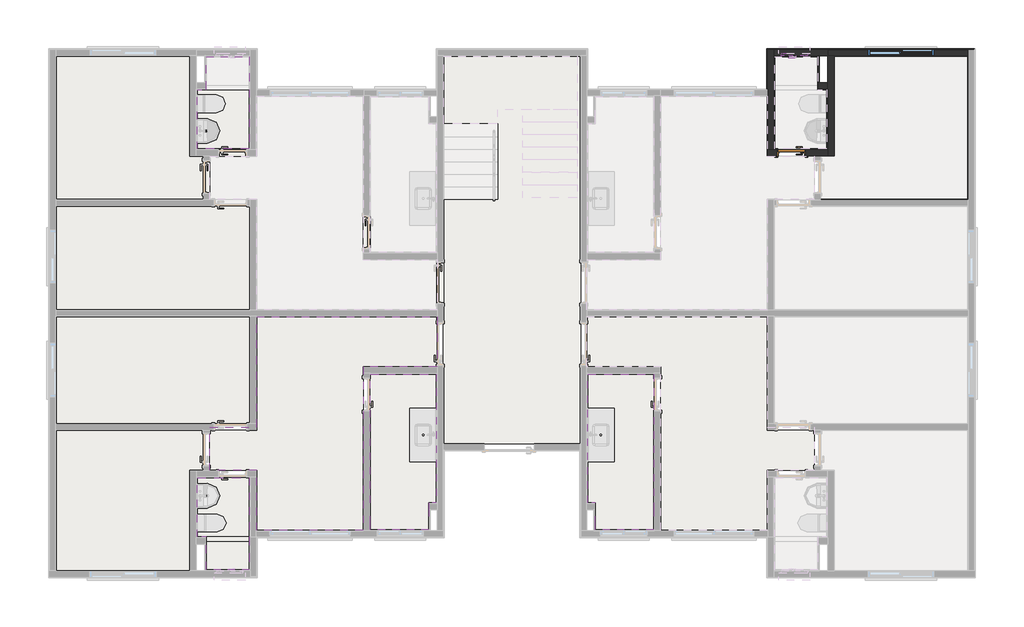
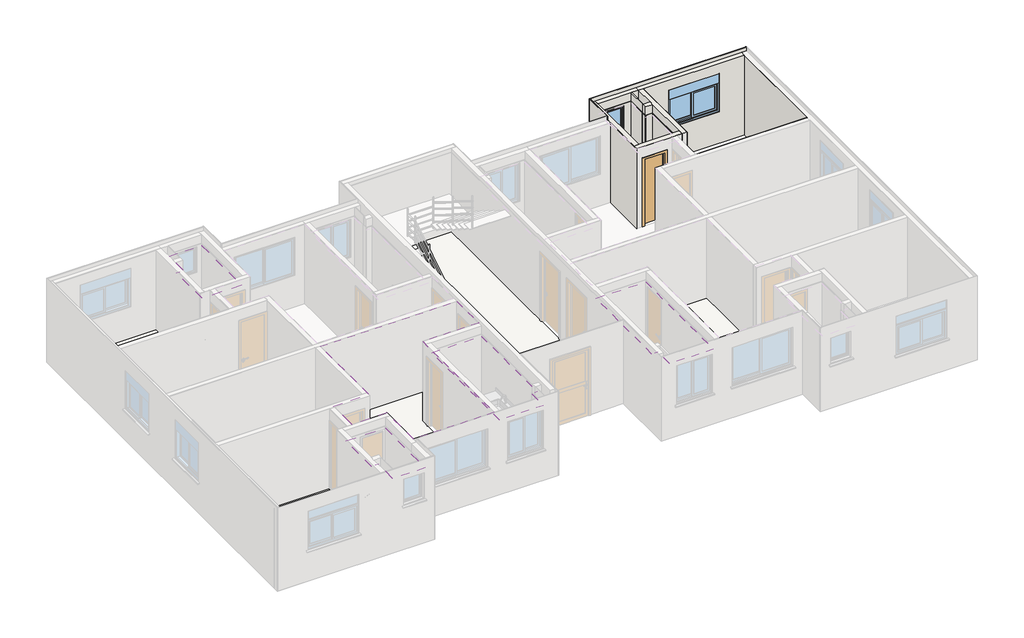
# One storey, part 8 of 9: 22 walls, 15 slabs, 5 coverings, 2 windows, 1 door.
"""IFC4 building model written with IfcOpenShell, lengths in millimetres."""

from ifc_helpers import new_model, si_unit, frame, origin, place, context, project, spatial, polyline, outline, extrude, faceted_brep, transform, mapped, element, save
from components import porta_de_madeira_interna_60_x_210_porta_de_madeira_interna_53f76a03, window_150x120_581fea6a, window_60x80_d31b0025

model = new_model("IFC4")

# Units and contexts
model_context = context("Model", 3, world=origin())
ifc_project = project(units=[si_unit("LENGTHUNIT", "METRE", prefix="MILLI")], contexts=[model_context])

# Site, building, storey
site = spatial("IfcSite", under=ifc_project)
building = spatial("IfcBuilding", under=site)
storey = spatial("IfcBuildingStorey", under=building, Name="3º Pavimento", Elevation=5260.0)

# Coverings
placement = place(None, origin())
element("IfcCovering", 1, ObjectType="Forro - Gesso acartonado + Pintura", at=placement, inside=storey, context=model_context, shape_type="Brep", body=[
    faceted_brep([(8536.99631, 1539.9983274, 7461.0), (7233.0017324, 1539.9983274, 7461.0), (7233.0017324, 2145.0132549, 7461.0), (7233.0017324, 5033.6603139, 7461.0), (8709.9963008, 5033.6603139, 7461.0), (8709.9963008, 2145.0132549, 7461.0), (8536.99631, 2145.0132549, 7461.0), (7233.0017324, 1539.9983274, 7481.0), (8536.99631, 1539.9983274, 7481.0), (8536.99631, 2145.0132549, 7481.0), (8709.9963008, 2145.0132549, 7481.0), (8709.9963008, 5033.6603139, 7481.0), (7233.0017324, 5033.6603139, 7481.0), (7233.0017324, 2145.0132549, 7481.0)], [[[0, 1, 2, 3, 4, 5, 6]], [[7, 8, 9, 10, 11, 12, 13]], [[8, 7, 1, 0]], [[9, 8, 0, 6]], [[10, 9, 6, 5]], [[11, 10, 5, 4]], [[12, 11, 4, 3]], [[7, 13, 12, 3, 2, 1]]]),
    faceted_brep([(7233.0017324, 1539.9983274, 7460.0), (8536.99631, 1539.9983274, 7460.0), (8536.99631, 1539.9983274, 7461.0), (7233.0017324, 1539.9983274, 7461.0), (8536.99631, 2145.0132549, 7460.0), (8536.99631, 2145.0132549, 7461.0), (8709.9963008, 2145.0132549, 7460.0), (8709.9963008, 2145.0132549, 7461.0), (8709.9963008, 5033.6603139, 7460.0), (8709.9963008, 5033.6603139, 7461.0), (7233.0017324, 5033.6603139, 7460.0), (7233.0017324, 5033.6603139, 7461.0), (7233.0017324, 2145.0132549, 7460.0), (7233.0017324, 2145.0132549, 7461.0)], [[[0, 1, 2, 3]], [[1, 4, 5, 2]], [[4, 6, 7, 5]], [[6, 8, 9, 7]], [[8, 10, 11, 9]], [[12, 0, 3, 13, 11, 10]], [[3, 2, 5, 7, 9, 11, 13]], [[0, 12, 10, 8, 6, 4, 1]]]),
])
element("IfcCovering", 2, ObjectType="Forro - Gesso acartonado + Pintura", at=placement, inside=storey, context=model_context, shape_type="Brep", body=[
    faceted_brep([(3339.9976538, 2709.9967615, 7461.0), (4509.9990083, 2709.9967615, 7461.0), (4509.9990083, 1379.9983274, 7461.0), (4509.9990083, 639.9950349, 7461.0), (3549.99398, 639.9950349, 7461.0), (3549.99398, 1379.9983274, 7461.0), (3339.9976538, 1379.9983274, 7461.0), (4509.9990083, 2709.9967615, 7481.0), (3339.9976538, 2709.9967615, 7481.0), (3339.9976538, 1379.9983274, 7481.0), (3549.99398, 1379.9983274, 7481.0), (3549.99398, 639.9950349, 7481.0), (4509.9990083, 639.9950349, 7481.0), (4509.9990083, 1379.9983274, 7481.0)], [[[0, 1, 2, 3, 4, 5, 6]], [[7, 8, 9, 10, 11, 12, 13]], [[8, 7, 1, 0]], [[9, 8, 0, 6]], [[10, 9, 6, 5]], [[11, 10, 5, 4]], [[12, 11, 4, 3]], [[7, 13, 12, 3, 2, 1]]]),
    faceted_brep([(4509.9990083, 2709.9967615, 7460.0), (3339.9976538, 2709.9967615, 7460.0), (3339.9976538, 2709.9967615, 7461.0), (4509.9990083, 2709.9967615, 7461.0), (3339.9976538, 1379.9983274, 7460.0), (3339.9976538, 1379.9983274, 7461.0), (3549.99398, 1379.9983274, 7460.0), (3549.99398, 1379.9983274, 7461.0), (3549.99398, 639.9950349, 7460.0), (3549.99398, 639.9950349, 7461.0), (4509.9990083, 639.9950349, 7460.0), (4509.9990083, 639.9950349, 7461.0), (4509.9990083, 1379.9983274, 7460.0), (4509.9990083, 1379.9983274, 7461.0)], [[[0, 1, 2, 3]], [[1, 4, 5, 2]], [[4, 6, 7, 5]], [[6, 8, 9, 7]], [[8, 10, 11, 9]], [[12, 0, 3, 13, 11, 10]], [[3, 2, 5, 7, 9, 11, 13]], [[0, 12, 10, 8, 6, 4, 1]]]),
])
element("IfcCovering", 3, ObjectType="Forro - Gesso acartonado + Pintura", at=placement, inside=storey, context=model_context, shape_type="Brep", body=[
    faceted_brep([(4509.9990083, 10090.0238664, 7461.0), (3339.9976538, 10090.0238664, 7461.0), (3339.9976538, 11420.0223004, 7461.0), (3549.99398, 11420.0223004, 7461.0), (3549.99398, 12160.025593, 7461.0), (4509.9990083, 12160.025593, 7461.0), (4509.9990083, 11420.0223004, 7461.0), (4509.9990083, 10090.0238664, 7481.0), (4509.9990083, 11420.0223004, 7481.0), (4509.9990083, 12160.025593, 7481.0), (3549.99398, 12160.025593, 7481.0), (3549.99398, 11420.0223004, 7481.0), (3339.9976538, 11420.0223004, 7481.0), (3339.9976538, 10090.0238664, 7481.0)], [[[0, 1, 2, 3, 4, 5, 6]], [[7, 8, 9, 10, 11, 12, 13]], [[7, 13, 1, 0]], [[13, 12, 2, 1]], [[12, 11, 3, 2]], [[11, 10, 4, 3]], [[10, 9, 5, 4]], [[9, 8, 7, 0, 6, 5]]]),
    faceted_brep([(3339.9976538, 10090.0238664, 7460.0), (4509.9990083, 10090.0238664, 7460.0), (4509.9990083, 10090.0238664, 7461.0), (3339.9976538, 10090.0238664, 7461.0), (3339.9976538, 11420.0223004, 7460.0), (3339.9976538, 11420.0223004, 7461.0), (3549.99398, 11420.0223004, 7460.0), (3549.99398, 11420.0223004, 7461.0), (3549.99398, 12160.025593, 7460.0), (3549.99398, 12160.025593, 7461.0), (4509.9990083, 12160.025593, 7460.0), (4509.9990083, 12160.025593, 7461.0), (4509.9990083, 11420.0223004, 7460.0), (4509.9990083, 11420.0223004, 7461.0)], [[[0, 1, 2, 3]], [[4, 0, 3, 5]], [[6, 4, 5, 7]], [[8, 6, 7, 9]], [[10, 8, 9, 11]], [[12, 10, 11, 13, 2, 1]], [[3, 2, 13, 11, 9, 7, 5]], [[1, 0, 4, 6, 8, 10, 12]]]),
])
element("IfcCovering", 4, ObjectType="Forro - Gesso acartonado + Pintura", at=placement, inside=storey, context=model_context, shape_type="Brep", body=[
    faceted_brep([(13586.992975, 1539.9983274, 7461.0), (12282.9983974, 1539.9983274, 7461.0), (12282.9983974, 2145.0132549, 7461.0), (12109.9984066, 2145.0132549, 7461.0), (12109.9984066, 5033.6603139, 7461.0), (13586.992975, 5033.6603139, 7461.0), (13586.992975, 2145.0132549, 7461.0), (13586.992975, 1539.9983274, 7481.0), (13586.992975, 2145.0132549, 7481.0), (13586.992975, 5033.6603139, 7481.0), (12109.9984066, 5033.6603139, 7481.0), (12109.9984066, 2145.0132549, 7481.0), (12282.9983974, 2145.0132549, 7481.0), (12282.9983974, 1539.9983274, 7481.0)], [[[0, 1, 2, 3, 4, 5, 6]], [[7, 8, 9, 10, 11, 12, 13]], [[7, 13, 1, 0]], [[13, 12, 2, 1]], [[12, 11, 3, 2]], [[11, 10, 4, 3]], [[10, 9, 5, 4]], [[9, 8, 7, 0, 6, 5]]]),
    faceted_brep([(12282.9983974, 1539.9983274, 7460.0), (13586.992975, 1539.9983274, 7460.0), (13586.992975, 1539.9983274, 7461.0), (12282.9983974, 1539.9983274, 7461.0), (12282.9983974, 2145.0132549, 7460.0), (12282.9983974, 2145.0132549, 7461.0), (12109.9984066, 2145.0132549, 7460.0), (12109.9984066, 2145.0132549, 7461.0), (12109.9984066, 5033.6603139, 7460.0), (12109.9984066, 5033.6603139, 7461.0), (13586.992975, 5033.6603139, 7460.0), (13586.992975, 5033.6603139, 7461.0), (13586.992975, 2145.0132549, 7460.0), (13586.992975, 2145.0132549, 7461.0)], [[[0, 1, 2, 3]], [[4, 0, 3, 5]], [[6, 4, 5, 7]], [[8, 6, 7, 9]], [[10, 8, 9, 11]], [[12, 10, 11, 13, 2, 1]], [[3, 2, 13, 11, 9, 7, 5]], [[1, 0, 4, 6, 8, 10, 12]]]),
])
element("IfcCovering", 5, ObjectType="Textura Laje", at=placement, inside=storey, context=model_context, shape_type="SweptSolid", body=[
    extrude(outline(polyline([(175.9991825, 624.9953844), (175.9991825, 3773.9951411), (3474.9980641, 3773.9951411), (3474.9980641, 2874.9967615), (3174.9977061, 2874.9967615), (3174.9977061, 624.9953844), (175.9991825, 624.9953844)])), frame((0.0, 0.0, 7768.0), z_axis=(0.0, 0.0, 1.0), x_axis=(1.0, 0.0, 0.0)), (0.0, 0.0, 1.0), 2.0),
    extrude(outline(polyline([(174.9992567, 3926.5903488), (174.9992567, 6325.0103139), (4524.9996867, 6325.0103139), (4524.9996867, 3926.5903488), (174.9992567, 3926.5903488)])), frame((0.0, 0.0, 7768.0), z_axis=(0.0, 0.0, 1.0), x_axis=(1.0, 0.0, 0.0)), (0.0, 0.0, 1.0), 2.0),
    extrude(outline(polyline([(4675.9996867, 3843.9961476), (4675.9996867, 6324.0103139), (8729.9963008, 6324.0103139), (8729.9963008, 5199.6603139), (8709.865378, 5199.6603139), (7066.9986861, 5199.6603139), (7066.9986861, 1525.9983274), (4675.9990083, 1525.9983274), (4675.9990083, 2875.9967615), (3625.9980641, 2875.9967615), (3625.9980641, 3843.9961476), (4675.9996867, 3843.9961476)])), frame((0.0, 0.0, 7768.0), z_axis=(0.0, 0.0, 1.0), x_axis=(1.0, 0.0, 0.0)), (0.0, 0.0, 1.0), 2.0),
])

# Door
porta_de_madeira_interna_60_x_210_porta_de_madeira_interna_shape = porta_de_madeira_interna_60_x_210_porta_de_madeira_interna_53f76a03(model_context)
element("IfcDoor", 6, ObjectType="Porta de Madeira Interna 60 x 210 : Porta de Madeira Interna 60 x 210", at=placement, inside=storey, context=model_context, shape_type="MappedRepresentation", body=[
    mapped(porta_de_madeira_interna_60_x_210_porta_de_madeira_interna_shape, transform((16681.9956991, 10003.1988664, 5260.0), x_axis=(-1.0, 0.0, 0.0), y_axis=(0.0, -1.0, 0.0), z_axis=(0.0, 0.0, 1.0))),
])

# Slabs
element("IfcSlab", 7, ObjectType="Cerâmica piso + Impermeabilização", at=placement, inside=storey, context=model_context, shape_type="SweptSolid", body=[
    extrude(outline(polyline([(4509.99398, 1294.9970972), (4509.99398, 639.9950349), (3549.99398, 639.9950349), (3549.99398, 1294.9970972), (4509.99398, 1294.9970972)])), frame((0.0, 0.0, 5259.0), z_axis=(0.0, 0.0, 1.0), x_axis=(1.0, 0.0, 0.0)), (0.0, 0.0, 1.0), 11.0),
])
element("IfcSlab", 8, ObjectType="Pedra Basalto", at=placement, inside=storey, context=model_context, shape_type="SweptSolid", body=[
    extrude(outline(polyline([(4509.99398, 1284.9970972), (3529.99398, 1284.9970972), (3529.99398, 1384.9970972), (4509.99398, 1384.9970972), (4509.99398, 1284.9970972)])), frame((0.0, 0.0, 5350.0), z_axis=(0.0, 0.0, 1.0), x_axis=(1.0, 0.0, 0.0)), (0.0, 0.0, 1.0), 20.0),
])
element("IfcSlab", 9, ObjectType="Cerâmica", at=placement, inside=storey, context=model_context, shape_type="SweptSolid", body=[
    extrude(outline(polyline([(4509.9990083, 1379.9970972), (3339.9976538, 1379.9970972), (3339.9976538, 2709.9967615), (4509.9990083, 2709.9967615), (4509.9990083, 1379.9970972)])), frame((0.0, 0.0, 5260.0), z_axis=(0.0, 0.0, 1.0), x_axis=(1.0, 0.0, 0.0)), (0.0, 0.0, 1.0), 10.0),
])
element("IfcSlab", 10, ObjectType="Cerâmica", at=placement, inside=storey, context=model_context, shape_type="SweptSolid", body=[
    extrude(outline(polyline([(8709.9963008, 5033.6603139), (8709.9963008, 2145.0132549), (8536.99631, 2145.0132549), (8536.99631, 1539.9983274), (7233.0017324, 1539.9983274), (7233.0017324, 2145.0132549), (7233.0017324, 5033.6603139), (8709.9963008, 5033.6603139)])), frame((0.0, 0.0, 5260.0), z_axis=(0.0, 0.0, 1.0), x_axis=(1.0, 0.0, 0.0)), (0.0, 0.0, 1.0), 10.0),
])
element("IfcSlab", 11, ObjectType="Cerâmica", at=placement, inside=storey, context=model_context, shape_type="SweptSolid", body=[
    extrude(outline(polyline([(4509.9990083, 11420.0235306), (4509.9990083, 10090.0238664), (3339.9976538, 10090.0238664), (3339.9976538, 11420.0235306), (4509.9990083, 11420.0235306)])), frame((0.0, 0.0, 5260.0), z_axis=(0.0, 0.0, 1.0), x_axis=(1.0, 0.0, 0.0)), (0.0, 0.0, 1.0), 10.0),
])
element("IfcSlab", 12, ObjectType="Cerâmica", at=placement, inside=storey, context=model_context, shape_type="SweptSolid", body=[
    extrude(outline(polyline([(8723.9963008, 6324.0103139), (8723.9963008, 5199.6603139), (7066.9986861, 5199.6603139), (7066.9986861, 1519.9983274), (4675.9990083, 1519.9983274), (4675.9990083, 2875.9967615), (3625.9980641, 2875.9967615), (3625.9980641, 3773.9951411), (4675.9996867, 3773.9951411), (4675.9996867, 6324.0103139), (8723.9963008, 6324.0103139)])), frame((0.0, 0.0, 5260.0), z_axis=(0.0, 0.0, 1.0), x_axis=(1.0, 0.0, 0.0)), (0.0, 0.0, 1.0), 10.0),
])
element("IfcSlab", 13, ObjectType="Vinilico", at=placement, inside=storey, context=model_context, shape_type="SweptSolid", body=[
    extrude(outline(polyline([(4523.9996867, 6324.0103139), (4523.9996867, 3925.9951411), (175.9991825, 3925.9951411), (175.9991825, 6324.0103139), (4523.9996867, 6324.0103139)])), frame((0.0, 0.0, 5260.0), z_axis=(0.0, 0.0, 1.0), x_axis=(1.0, 0.0, 0.0)), (0.0, 0.0, 1.0), 10.0),
])
element("IfcSlab", 14, ObjectType="Vinilico", at=placement, inside=storey, context=model_context, shape_type="SweptSolid", body=[
    extrude(outline(polyline([(4523.9996867, 8804.0244803), (4523.9996867, 6476.0103139), (175.9991825, 6476.0103139), (175.9991825, 8804.0244803), (4523.9996867, 8804.0244803)])), frame((0.0, 0.0, 5260.0), z_axis=(0.0, 0.0, 1.0), x_axis=(1.0, 0.0, 0.0)), (0.0, 0.0, 1.0), 10.0),
])
element("IfcSlab", 15, ObjectType="Vinilico", at=placement, inside=storey, context=model_context, shape_type="SweptSolid", body=[
    extrude(outline(polyline([(175.9991825, 12174.0253822), (3173.9976538, 12174.0253822), (3173.9976538, 9924.0253822), (3473.9976538, 9924.0253822), (3473.9976538, 8954.0253822), (175.9991825, 8954.0253822), (175.9991825, 12174.0253822)])), frame((0.0, 0.0, 5260.0), z_axis=(0.0, 0.0, 1.0), x_axis=(1.0, 0.0, 0.0)), (0.0, 0.0, 1.0), 10.0),
])
element("IfcSlab", 16, ObjectType="Vinilico", at=placement, inside=storey, context=model_context, shape_type="SweptSolid", body=[
    extrude(outline(polyline([(175.9991825, 625.9952456), (175.9991825, 3845.9952456), (3473.9976538, 3845.9952456), (3473.9976538, 2875.9952456), (3173.9976538, 2875.9952456), (3173.9976538, 625.9952456), (175.9991825, 625.9952456)])), frame((0.0, 0.0, 5260.0), z_axis=(0.0, 0.0, 1.0), x_axis=(1.0, 0.0, 0.0)), (0.0, 0.0, 1.0), 10.0),
])
element("IfcSlab", 17, ObjectType="Cerâmica", at=placement, inside=storey, context=model_context, shape_type="SweptSolid", body=[
    extrude(outline(polyline([(12109.9984066, 5033.6603139), (13586.992975, 5033.6603139), (13586.992975, 2145.0132549), (13586.992975, 1539.9983274), (12282.9983974, 1539.9983274), (12282.9983974, 2145.0132549), (12109.9984066, 2145.0132549), (12109.9984066, 5033.6603139)])), frame((0.0, 0.0, 5260.0), z_axis=(0.0, 0.0, 1.0), x_axis=(1.0, 0.0, 0.0)), (0.0, 0.0, 1.0), 10.0),
])
element("IfcSlab", 18, ObjectType="Cerâmica", at=placement, inside=storey, context=model_context, shape_type="SweptSolid", body=[
    extrude(outline(polyline([(12095.9984066, 6324.0103139), (16143.9950207, 6324.0103139), (16143.9950207, 3773.9951411), (17193.9966432, 3773.9951411), (17193.9966432, 2875.9967615), (16143.9956991, 2875.9967615), (16143.9956991, 1519.9983274), (13752.9960213, 1519.9983274), (13752.9960213, 5199.6603139), (12095.9984066, 5199.6603139), (12095.9984066, 6324.0103139)])), frame((0.0, 0.0, 5260.0), z_axis=(0.0, 0.0, 1.0), x_axis=(1.0, 0.0, 0.0)), (0.0, 0.0, 1.0), 10.0),
])
element("IfcSlab", 19, ObjectType="Soleira", at=placement, inside=storey, context=model_context, shape_type="SweptSolid", body=[
    extrude(outline(polyline([(3625.9980641, 9832.0248023), (3625.9980641, 9082.0248023), (3473.9980641, 9082.0248023), (3473.9980641, 9832.0248023), (3625.9980641, 9832.0248023)])), frame((0.0, 0.0, 5260.0), z_axis=(0.0, 0.0, 1.0), x_axis=(1.0, 0.0, 0.0)), (0.0, 0.0, 1.0), 10.0),
    extrude(outline(polyline([(4462.9990083, 10090.0238664), (4462.9990083, 9924.0238664), (3812.9990083, 9924.0238664), (3812.9990083, 10090.0238664), (4462.9990083, 10090.0238664)])), frame((0.0, 0.0, 5260.0), z_axis=(0.0, 0.0, 1.0), x_axis=(1.0, 0.0, 0.0)), (0.0, 0.0, 1.0), 10.0),
])
element("IfcSlab", 20, ObjectType="Soleira", at=placement, inside=storey, context=model_context, shape_type="SweptSolid", body=[
    extrude(outline(polyline([(7233.0017324, 8596.3603139), (7233.0017324, 7846.3603139), (7066.9986861, 7846.3603139), (7066.9986861, 8596.3603139), (7233.0017324, 8596.3603139)])), frame((0.0, 0.0, 5260.0), z_axis=(0.0, 0.0, 1.0), x_axis=(1.0, 0.0, 0.0)), (0.0, 0.0, 1.0), 10.0),
    extrude(outline(polyline([(8723.9963008, 7560.0103139), (8875.9991022, 7560.0103139), (8875.9991022, 6610.0103139), (8723.9963008, 6610.0103139), (8723.9963008, 7560.0103139)])), frame((0.0, 0.0, 5260.0), z_axis=(0.0, 0.0, 1.0), x_axis=(1.0, 0.0, 0.0)), (0.0, 0.0, 1.0), 10.0),
])
element("IfcSlab", 21, ObjectType="Porcelanato", at=placement, inside=storey, context=model_context, shape_type="SweptSolid", body=[
    extrude(outline(polyline([(11949.9956991, 3470.00443), (8869.9991022, 3470.00443), (8869.9991022, 12179.9988127), (11949.9956991, 12179.9988127), (11949.9956991, 3470.00443)])), frame((0.0, 0.0, 5260.0), z_axis=(0.0, 0.0, 1.0), x_axis=(1.0, 0.0, 0.0)), (0.0, 0.0, 1.0), 10.0),
])

# Walls
element("IfcWall", 22, ObjectType="Mureta box", at=placement, inside=storey, context=model_context, shape_type="SweptSolid", body=[
    extrude(outline(polyline([(16310.0007274, 11505.0235306), (17290.0007274, 11505.0235306), (17290.0007274, 11495.0235306), (16310.0007274, 11495.0235306), (16310.0007274, 11505.0235306)])), frame((0.0, 0.0, 5260.0), z_axis=(0.0, 0.0, 1.0), x_axis=(1.0, 0.0, 0.0)), (0.0, 0.0, 1.0), 90.0),
    extrude(outline(polyline([(17290.0007274, 11425.0235306), (16310.0007274, 11425.0235306), (16310.0007274, 11435.0235306), (17290.0007274, 11435.0235306), (17290.0007274, 11425.0235306)])), frame((0.0, 0.0, 5260.0), z_axis=(0.0, 0.0, 1.0), x_axis=(1.0, 0.0, 0.0)), (0.0, 0.0, 1.0), 90.0),
    extrude(outline(polyline([(17290.0007274, 11495.0235306), (17290.0007274, 11435.0235306), (16310.0007274, 11435.0235306), (16310.0007274, 11495.0235306), (17290.0007274, 11495.0235306)])), frame((0.0, 0.0, 5260.0), z_axis=(0.0, 0.0, 1.0), x_axis=(1.0, 0.0, 0.0)), (0.0, 0.0, 1.0), 90.0),
])
element("IfcWall", 23, ObjectType="Alvenaria Estrutural", at=placement, inside=storey, context=model_context, shape_type="Brep", body=[
    faceted_brep([(20649.9955249, 12320.0252435, 5260.0), (17499.9970013, 12320.0252435, 5260.0), (17499.9970013, 12320.0252435, 7770.0), (20649.9955249, 12320.0252435, 7770.0), (18394.9962631, 12320.0252435, 7460.0), (18394.9962631, 12320.0252435, 6260.0), (18344.9962631, 12320.0252435, 6260.0), (18344.9962631, 12320.0252435, 6211.3083694), (19944.9962631, 12320.0252435, 6211.3083694), (19944.9962631, 12320.0252435, 6260.0), (19894.9962631, 12320.0252435, 6260.0), (19894.9962631, 12320.0252435, 7460.0), (17499.9970013, 12180.0252435, 5260.0), (17639.9970013, 12180.0252435, 5260.0), (20643.9955249, 12180.0252435, 5260.0), (20649.9955249, 12180.0252435, 5260.0), (20649.9955249, 12180.0252435, 7770.0), (20643.9955249, 12180.0252435, 7770.0), (17639.9970013, 12180.0252435, 7770.0), (17499.9970013, 12180.0252435, 7770.0), (18394.9962631, 12180.0252435, 6260.0), (18394.9962631, 12180.0252435, 7460.0), (19894.9962631, 12180.0252435, 7460.0), (19894.9962631, 12180.0252435, 6260.0), (18394.9962631, 12222.5252435, 6260.0), (19894.9962631, 12222.5252435, 6260.0), (19944.9962631, 12222.5252435, 6232.0326341), (19944.9962631, 12222.5252435, 6260.0), (18344.9962631, 12222.5252435, 6260.0), (18344.9962631, 12222.5252435, 6232.0326341)], [[[0, 1, 2, 3], [4, 5, 6, 7, 8, 9, 10, 11]], [[12, 13, 14, 15, 16, 17, 18, 19], [20, 21, 22, 23]], [[1, 0, 15, 14, 13, 12]], [[3, 2, 19, 18, 17, 16]], [[5, 4, 21, 20, 24]], [[4, 11, 22, 21]], [[11, 10, 25, 23, 22]], [[20, 23, 25, 24]], [[9, 8, 26, 27]], [[7, 6, 28, 29]], [[24, 25, 27, 26, 29, 28]], [[10, 9, 27, 25]], [[8, 7, 29, 26]], [[2, 1, 12, 19]], [[0, 3, 16, 15]], [[6, 5, 24, 28]]]),
])
element("IfcWall", 24, ObjectType="Alvenaria Estrutural", at=placement, inside=storey, context=model_context, shape_type="Brep", body=[
    faceted_brep([(17499.9970013, 12320.025593, 5260.0), (16289.9960602, 12320.025593, 5260.0), (16289.9960602, 12320.025593, 7770.0), (17499.9970013, 12320.025593, 7770.0), (17099.9960602, 12320.025593, 6611.3083694), (17099.9960602, 12320.025593, 6660.0), (17049.9960602, 12320.025593, 6660.0), (17049.9960602, 12320.025593, 7460.0), (16449.9960602, 12320.025593, 7460.0), (16449.9960602, 12320.025593, 6660.0), (16399.9960602, 12320.025593, 6660.0), (16399.9960602, 12320.025593, 6611.3083694), (16289.9960602, 12180.025593, 5260.0), (16309.9956991, 12180.025593, 5260.0), (17280.0007274, 12180.025593, 5260.0), (17303.0007274, 12180.025593, 5260.0), (17499.9970013, 12180.025593, 5260.0), (17499.9970013, 12180.025593, 7770.0), (17303.0007274, 12180.025593, 7770.0), (17280.0007274, 12180.025593, 7770.0), (16289.9960602, 12180.025593, 7770.0), (16289.9960602, 12180.025593, 7510.0), (16449.9960602, 12180.025593, 6660.0), (16449.9960602, 12180.025593, 7460.0), (17049.9960602, 12180.025593, 7460.0), (17049.9960602, 12180.025593, 6660.0), (17099.9960602, 12222.525593, 6632.0326341), (17099.9960602, 12222.525593, 6660.0), (16399.9960602, 12222.525593, 6660.0), (16399.9960602, 12222.525593, 6632.0326341), (16449.9960602, 12222.525593, 6660.0), (17049.9960602, 12222.525593, 6660.0)], [[[0, 1, 2, 3], [4, 5, 6, 7, 8, 9, 10, 11]], [[12, 13, 14, 15, 16, 17, 18, 19, 20, 21], [22, 23, 24, 25]], [[1, 0, 16, 15, 14, 13, 12]], [[3, 2, 20, 19, 18, 17]], [[5, 4, 26, 27]], [[11, 10, 28, 29]], [[27, 26, 29, 28, 30, 31]], [[6, 5, 27, 31]], [[4, 11, 29, 26]], [[9, 8, 23, 22, 30]], [[8, 7, 24, 23]], [[7, 6, 31, 25, 24]], [[22, 25, 31, 30]], [[0, 3, 17, 16]], [[2, 1, 12, 21, 20]], [[10, 9, 30, 28]]]),
])
element("IfcWall", 25, ObjectType="Alvenaria Estrutural", at=placement, inside=storey, context=model_context, shape_type="Brep", body=[
    faceted_brep([(17499.9970013, 12180.0252435, 5260.0), (17499.9970013, 11580.0235306, 5260.0), (17499.9970013, 11440.0235306, 5260.0), (17499.9970013, 11420.0235306, 5260.0), (17499.9970013, 10090.0238664, 5260.0), (17499.9970013, 10070.0238664, 5260.0), (17499.9970013, 9930.025593, 5260.0), (17499.9970013, 9930.025593, 7770.0), (17499.9970013, 10070.0238664, 7770.0), (17499.9970013, 11440.0235306, 7770.0), (17499.9970013, 11580.0235306, 7770.0), (17499.9970013, 12180.0252435, 7770.0), (17639.9970013, 12180.0252435, 5260.0), (17639.9970013, 12180.0252435, 7770.0), (17639.9970013, 12174.0253822, 7770.0), (17639.9970013, 9930.025593, 7770.0), (17639.9970013, 9930.025593, 5260.0), (17639.9970013, 12174.0253822, 5260.0)], [[[0, 1, 2, 3, 4, 5, 6, 7, 8, 9, 10, 11]], [[12, 13, 14, 15, 16, 17]], [[1, 0, 12, 17, 16, 6, 5, 4, 3, 2]], [[7, 6, 16, 15]], [[8, 7, 15, 14, 13, 11, 10, 9]], [[0, 11, 13, 12]]]),
])
element("IfcWall", 26, ObjectType="Alvenaria Estrutural", at=placement, inside=storey, context=model_context, shape_type="Brep", body=[
    faceted_brep([(17499.9970013, 11580.0235306, 5260.0), (17303.0007274, 11580.0235306, 5260.0), (17280.0007274, 11580.0235306, 5260.0), (17280.0007274, 11580.0235306, 7770.0), (17303.0007274, 11580.0235306, 7770.0), (17499.9970013, 11580.0235306, 7770.0), (17499.9970013, 11440.0235306, 5260.0), (17499.9970013, 11440.0235306, 7770.0), (17280.0007274, 11440.0235306, 7770.0), (17280.0007274, 11440.0235306, 5260.0)], [[[0, 1, 2, 3, 4, 5]], [[6, 7, 8, 9]], [[1, 0, 6, 9, 2]], [[4, 3, 8, 7, 5]], [[3, 2, 9, 8]], [[0, 5, 7, 6]]]),
])
element("IfcWall", 27, ObjectType="Alvenaria Estrutural", at=placement, inside=storey, context=model_context, shape_type="Brep", body=[
    faceted_brep([(16149.9960602, 10070.0238664, 7770.0), (16289.9960602, 10070.0238664, 7770.0), (17499.9970013, 10070.0238664, 7770.0), (17499.9970013, 10070.0238664, 7510.0), (17499.9970013, 10070.0238664, 5260.0), (17006.9956991, 10070.0238664, 5260.0), (17006.9956991, 10070.0238664, 7385.0), (16356.9956991, 10070.0238664, 7385.0), (16356.9956991, 10070.0238664, 5260.0), (16289.9960602, 10070.0238664, 5260.0), (16149.9960602, 10070.0238664, 5260.0), (17499.9970013, 9930.0238664, 7770.0), (17339.9966432, 9930.0238664, 7770.0), (17199.9966432, 9930.0238664, 7770.0), (17193.9966432, 9930.0238664, 7770.0), (16149.9960602, 9930.0238664, 7770.0), (16149.9960602, 9930.0238664, 5260.0), (16356.9956991, 9930.0238664, 5260.0), (16356.9956991, 9930.0238664, 7385.0), (17006.9956991, 9930.0238664, 7385.0), (17006.9956991, 9930.0238664, 5260.0), (17193.9966432, 9930.0238664, 5260.0), (17199.9966432, 9930.0238664, 5260.0), (17339.9966432, 9930.0238664, 5260.0), (17499.9970013, 9930.0238664, 5260.0)], [[[0, 1, 2, 3, 4, 5, 6, 7, 8, 9, 10]], [[11, 12, 13, 14, 15, 16, 17, 18, 19, 20, 21, 22, 23, 24]], [[5, 4, 24, 23, 22, 21, 20]], [[1, 0, 15, 14, 13, 12, 11, 2]], [[8, 7, 18, 17]], [[7, 6, 19, 18]], [[6, 5, 20, 19]], [[0, 10, 16, 15]], [[3, 2, 11, 24, 4]], [[9, 8, 17, 16, 10]]]),
])
element("IfcWall", 28, ObjectType="Alvenaria Estrutural", at=placement, inside=storey, context=model_context, shape_type="Brep", body=[
    faceted_brep([(16149.9960602, 12320.025593, 5260.0), (16149.9960602, 11436.0223004, 5260.0), (16149.9960602, 11420.0223004, 5260.0), (16149.9960602, 11280.0223004, 5260.0), (16149.9960602, 11274.0223004, 5260.0), (16149.9960602, 10070.0238664, 5260.0), (16149.9960602, 10070.0238664, 7770.0), (16149.9960602, 11274.0223004, 7770.0), (16149.9960602, 11280.0223004, 7770.0), (16149.9960602, 11420.0223004, 7770.0), (16149.9960602, 12320.025593, 7770.0), (16289.9960602, 12320.025593, 5260.0), (16289.9960602, 12320.025593, 7770.0), (16289.9960602, 12180.025593, 7770.0), (16289.9960602, 10070.0238664, 7770.0), (16289.9960602, 10070.0238664, 7510.0), (16289.9960602, 10070.0238664, 5260.0), (16289.9960602, 10090.0238664, 5260.0), (16289.9960602, 12180.025593, 5260.0)], [[[0, 1, 2, 3, 4, 5, 6, 7, 8, 9, 10]], [[11, 12, 13, 14, 15, 16, 17, 18]], [[1, 0, 11, 18, 17, 16, 5, 4, 3, 2]], [[7, 6, 14, 13, 12, 10, 9, 8]], [[0, 10, 12, 11]], [[6, 5, 16, 15, 14]]]),
])
element("IfcWall", 29, ObjectType="Azulejo", at=placement, inside=storey, context=model_context, shape_type="SolidModel", body=[
    faceted_brep([(17006.9956991, 10080.0238664, 5260.0), (17006.9956991, 10090.0238664, 5260.0), (17479.9970535, 10090.0238664, 5260.0), (17489.9970535, 10090.0238664, 5260.0), (17489.9970535, 10080.0238664, 5260.0), (17479.9970535, 10090.0238664, 7510.0), (16309.9956991, 10090.0238664, 7510.0), (16299.9956991, 10090.0238664, 7510.0), (16299.9956991, 10080.0238664, 7510.0), (17489.9970535, 10080.0238664, 7510.0), (17489.9970535, 10090.0238664, 7510.0), (16356.9956991, 10090.0238664, 5260.0), (16356.9956991, 10090.0238664, 7385.0), (16356.9956991, 10080.0238664, 7385.0), (16356.9956991, 10080.0238664, 5260.0), (17006.9956991, 10090.0238664, 7385.0), (17006.9956991, 10080.0238664, 7385.0), (16299.9956991, 10080.0238664, 5260.0), (16299.9956991, 10090.0238664, 5260.0), (16309.9956991, 10090.0238664, 5260.0)], [[[0, 1, 2, 3, 4]], [[5, 6, 7, 8, 9, 10]], [[11, 12, 13, 14]], [[13, 12, 15, 16]], [[1, 0, 16, 15]], [[11, 14, 17, 18, 19]], [[14, 13, 16, 0, 4, 9, 8, 17]], [[2, 1, 15, 12, 11, 19, 18, 7, 6, 5, 10, 3]], [[4, 3, 10, 9]], [[8, 7, 18, 17]]]),
    extrude(outline(polyline([(7510.0, 17499.9970013), (7510.0, 16289.9960602), (5260.0, 16289.9960602), (5260.0, 16356.9956991), (7385.0, 16356.9956991), (7385.0, 17006.9956991), (5260.0, 17006.9956991), (5260.0, 17499.9970013), (7510.0, 17499.9970013)])), frame((0.0, 10070.0238664, 0.0), z_axis=(0.0, 1.0, 0.0), x_axis=(0.0, 0.0, 1.0)), (0.0, 0.0, 1.0), 10.0),
])
element("IfcWall", 30, ObjectType="Azulejo", at=placement, inside=storey, context=model_context, shape_type="SolidModel", body=[
    faceted_brep([(16309.9956991, 12160.025593, 5260.0), (16309.9956991, 10090.0238664, 5260.0), (16299.9956991, 10090.0238664, 5260.0), (16299.9956991, 12170.025593, 5260.0), (16309.9956991, 12170.025593, 5260.0), (16299.9956991, 10090.0238664, 7510.0), (16309.9956991, 10090.0238664, 7510.0), (16309.9956991, 12160.025593, 7510.0), (16309.9956991, 12170.025593, 7510.0), (16299.9956991, 12170.025593, 7510.0)], [[[0, 1, 2, 3, 4]], [[5, 6, 7, 8, 9]], [[2, 1, 6, 5]], [[2, 5, 9, 3]], [[1, 0, 4, 8, 7, 6]], [[4, 3, 9, 8]]]),
    extrude(outline(polyline([(16289.9956991, 10080.0238664), (16289.9956991, 12180.025593), (16299.9956991, 12180.025593), (16299.9956991, 10080.0238664), (16289.9956991, 10080.0238664)])), frame((0.0, 0.0, 5260.0), z_axis=(0.0, 0.0, 1.0), x_axis=(1.0, 0.0, 0.0)), (0.0, 0.0, 1.0), 2250.0),
])
element("IfcWall", 31, ObjectType="Azulejo", at=placement, inside=storey, context=model_context, shape_type="SolidModel", body=[
    faceted_brep([(17270.0007274, 12160.025593, 5260.0), (16309.9956991, 12160.025593, 5260.0), (16309.9956991, 12170.025593, 5260.0), (17280.0007274, 12170.025593, 5260.0), (17280.0007274, 12160.025593, 5260.0), (17270.0007274, 12160.025593, 7510.0), (17280.0007274, 12160.025593, 7510.0), (17280.0007274, 12170.025593, 7510.0), (16309.9956991, 12170.025593, 7510.0), (16309.9956991, 12160.025593, 7510.0), (16449.9960602, 12160.025593, 7460.0), (16449.9960602, 12160.025593, 6660.0), (16449.9960602, 12170.025593, 6660.0), (16449.9960602, 12170.025593, 7460.0), (17049.9960602, 12160.025593, 7460.0), (17049.9960602, 12170.025593, 7460.0), (17049.9960602, 12160.025593, 6660.0), (17049.9960602, 12170.025593, 6660.0)], [[[0, 1, 2, 3, 4]], [[5, 6, 7, 8, 9]], [[10, 11, 12, 13]], [[14, 10, 13, 15]], [[16, 14, 15, 17]], [[11, 16, 17, 12]], [[1, 9, 8, 2]], [[6, 4, 3, 7]], [[3, 2, 8, 7], [13, 12, 17, 15]], [[1, 0, 4, 6, 5, 9], [11, 10, 14, 16]]]),
    extrude(outline(polyline([(5260.0, 16299.9956991), (5260.0, 17280.0007274), (7510.0, 17280.0007274), (7510.0, 16299.9956991), (5260.0, 16299.9956991)]), holes=[polyline([(6660.0, 16449.9960602), (7460.0, 16449.9960602), (7460.0, 17049.9960602), (6660.0, 17049.9960602), (6660.0, 16449.9960602)])]), frame((0.0, 12170.025593, 0.0), z_axis=(0.0, 1.0, 0.0), x_axis=(0.0, 0.0, 1.0)), (0.0, 0.0, 1.0), 10.0),
])
element("IfcWall", 32, ObjectType="Azulejo", at=placement, inside=storey, context=model_context, shape_type="SweptSolid", body=[
    extrude(outline(polyline([(17270.0007274, 11430.0235306), (17270.0007274, 11580.0235306), (17280.0007274, 11580.0235306), (17280.0007274, 11430.0235306), (17270.0007274, 11430.0235306)])), frame((0.0, 0.0, 5260.0), z_axis=(0.0, 0.0, 1.0), x_axis=(1.0, 0.0, 0.0)), (0.0, 0.0, 1.0), 2250.0),
    extrude(outline(polyline([(17290.0007274, 11580.0235306), (17290.0007274, 11440.0235306), (17280.0007274, 11440.0235306), (17280.0007274, 11580.0235306), (17290.0007274, 11580.0235306)])), frame((0.0, 0.0, 5260.0), z_axis=(0.0, 0.0, 1.0), x_axis=(1.0, 0.0, 0.0)), (0.0, 0.0, 1.0), 2250.0),
])
element("IfcWall", 33, ObjectType="Azulejo", at=placement, inside=storey, context=model_context, shape_type="Brep", body=[
    faceted_brep([(17479.9970535, 11420.0235306, 5260.0), (17270.0007274, 11420.0235306, 5260.0), (17270.0007274, 11430.0235306, 5260.0), (17489.9970535, 11430.0235306, 5260.0), (17489.9970535, 11420.0235306, 5260.0), (17270.0007274, 11430.0235306, 7510.0), (17270.0007274, 11420.0235306, 7510.0), (17479.9970535, 11420.0235306, 7510.0), (17489.9970535, 11420.0235306, 7510.0), (17489.9970535, 11430.0235306, 7510.0)], [[[0, 1, 2, 3, 4]], [[5, 6, 7, 8, 9]], [[2, 1, 6, 5]], [[2, 5, 9, 3]], [[1, 0, 4, 8, 7, 6]], [[4, 3, 9, 8]]]),
    faceted_brep([(17280.0007274, 11430.0235306, 5260.0), (17499.9970013, 11430.0235306, 5260.0), (17499.9970013, 11430.0235306, 7510.0), (17280.0007274, 11430.0235306, 7510.0), (17499.9970013, 11440.0235306, 5260.0), (17290.0007274, 11440.0235306, 5260.0), (17280.0007274, 11440.0235306, 5260.0), (17280.0007274, 11440.0235306, 7510.0), (17290.0007274, 11440.0235306, 7510.0), (17499.9970013, 11440.0235306, 7510.0)], [[[0, 1, 2, 3]], [[4, 5, 6, 7, 8, 9]], [[5, 4, 1, 0, 6]], [[8, 7, 3, 2, 9]], [[4, 9, 2, 1]], [[7, 6, 0, 3]]]),
])
element("IfcWall", 34, ObjectType="Azulejo", at=placement, inside=storey, context=model_context, shape_type="SweptSolid", body=[
    extrude(outline(polyline([(17479.9970535, 10090.0238664), (17479.9970535, 11420.0235306), (17489.9970535, 11420.0235306), (17489.9970535, 10090.0238664), (17479.9970535, 10090.0238664)])), frame((0.0, 0.0, 5260.0), z_axis=(0.0, 0.0, 1.0), x_axis=(1.0, 0.0, 0.0)), (0.0, 0.0, 1.0), 2250.0),
    extrude(outline(polyline([(17499.9970535, 11430.0235306), (17499.9970535, 10080.0238664), (17489.9970535, 10080.0238664), (17489.9970535, 11430.0235306), (17499.9970535, 11430.0235306)])), frame((0.0, 0.0, 5260.0), z_axis=(0.0, 0.0, 1.0), x_axis=(1.0, 0.0, 0.0)), (0.0, 0.0, 1.0), 2250.0),
])
element("IfcWall", 35, ObjectType="Azulejo - Shaft", at=placement, inside=storey, context=model_context, shape_type="SweptSolid", body=[
    extrude(outline(polyline([(17270.0007274, 11580.0235306), (17270.0007274, 12160.025593), (17280.0007274, 12160.025593), (17280.0007274, 11580.0235306), (17270.0007274, 11580.0235306)])), frame((0.0, 0.0, 5260.0), z_axis=(0.0, 0.0, 1.0), x_axis=(1.0, 0.0, 0.0)), (0.0, 0.0, 1.0), 2250.0),
])
element("IfcWall", 36, ObjectType="Gesso Liso + Pintura", at=placement, inside=storey, context=model_context, shape_type="SolidModel", body=[
    faceted_brep([(20644.9955249, 8950.0244803, 5260.0), (20643.9955249, 8950.0244803, 5260.0), (20643.9955249, 12174.0253822, 5260.0), (20643.9955249, 12175.0253822, 5260.0), (20644.9955249, 12175.0253822, 5260.0), (20643.9955249, 12174.0253822, 7770.0), (20643.9955249, 8950.0244803, 7770.0), (20644.9955249, 8950.0244803, 7770.0), (20644.9955249, 12175.0253822, 7770.0), (20643.9955249, 12175.0253822, 7770.0)], [[[0, 1, 2, 3, 4]], [[5, 6, 7, 8, 9]], [[1, 0, 7, 6]], [[7, 0, 4, 8]], [[2, 1, 6, 5, 9, 3]], [[4, 3, 9, 8]]]),
    extrude(outline(polyline([(20649.9955249, 12180.0252435), (20649.9955249, 8950.0244803), (20644.9955249, 8950.0244803), (20644.9955249, 12180.0252435), (20649.9955249, 12180.0252435)])), frame((0.0, 0.0, 5260.0), z_axis=(0.0, 0.0, 1.0), x_axis=(1.0, 0.0, 0.0)), (0.0, 0.0, 1.0), 2510.0),
])
element("IfcWall", 37, ObjectType="Gesso Liso + Pintura", at=placement, inside=storey, context=model_context, shape_type="SolidModel", body=[
    faceted_brep([(20643.9955249, 12175.0253822, 5260.0), (20643.9955249, 12174.0253822, 5260.0), (17645.9970535, 12174.0253822, 5260.0), (17644.9970535, 12174.0253822, 5260.0), (17644.9970535, 12175.0253822, 5260.0), (17645.9970535, 12174.0253822, 7770.0), (20643.9955249, 12174.0253822, 7770.0), (20643.9955249, 12175.0253822, 7770.0), (17644.9970535, 12175.0253822, 7770.0), (17644.9970535, 12174.0253822, 7770.0), (18394.9962631, 12174.0253822, 7460.0), (18394.9962631, 12174.0253822, 6260.0), (18394.9962631, 12175.0253822, 6260.0), (18394.9962631, 12175.0253822, 7460.0), (19894.9962631, 12175.0253822, 7460.0), (19894.9962631, 12174.0253822, 7460.0), (19894.9962631, 12175.0253822, 6260.0), (19894.9962631, 12174.0253822, 6260.0)], [[[0, 1, 2, 3, 4]], [[5, 6, 7, 8, 9]], [[10, 11, 12, 13]], [[10, 13, 14, 15]], [[15, 14, 16, 17]], [[12, 11, 17, 16]], [[1, 0, 7, 6]], [[7, 0, 4, 8], [13, 12, 16, 14]], [[2, 1, 6, 5, 9, 3], [11, 10, 15, 17]], [[4, 3, 9, 8]]]),
    extrude(outline(polyline([(5260.0, 17639.9970013), (5260.0, 20644.9955249), (7770.0, 20644.9955249), (7770.0, 17639.9970013), (5260.0, 17639.9970013)]), holes=[polyline([(6260.0, 18394.9962631), (7460.0, 18394.9962631), (7460.0, 19894.9962631), (6260.0, 19894.9962631), (6260.0, 18394.9962631)])]), frame((0.0, 12175.0253822, 0.0), z_axis=(0.0, 1.0, 0.0), x_axis=(0.0, 0.0, 1.0)), (0.0, 0.0, 1.0), 5.0),
])
element("IfcWall", 38, ObjectType="Gesso Liso + Pintura", at=placement, inside=storey, context=model_context, shape_type="SolidModel", body=[
    extrude(outline(polyline([(17645.9970535, 12174.0253822), (17645.9970535, 9924.0238664), (17644.9970535, 9924.0238664), (17644.9970535, 12174.0253822), (17645.9970535, 12174.0253822)])), frame((0.0, 0.0, 5260.0), z_axis=(0.0, 0.0, 1.0), x_axis=(1.0, 0.0, 0.0)), (0.0, 0.0, 1.0), 2510.0),
    faceted_brep([(17644.9970535, 9925.0238664, 5260.0), (17644.9970535, 12175.0253822, 5260.0), (17644.9970535, 12175.0253822, 7770.0), (17644.9970535, 9925.0238664, 7770.0), (17639.9970535, 12175.0253822, 5260.0), (17639.9970535, 9930.0238664, 5260.0), (17639.9970535, 9925.0238664, 5260.0), (17639.9970535, 9925.0238664, 7770.0), (17639.9970535, 9930.0238664, 7770.0), (17639.9970535, 12175.0253822, 7770.0)], [[[0, 1, 2, 3]], [[4, 5, 6, 7, 8, 9]], [[5, 4, 1, 0, 6]], [[8, 7, 3, 2, 9]], [[4, 9, 2, 1]], [[7, 6, 0, 3]]]),
])
element("IfcWall", 39, ObjectType="Gesso Liso + Pintura", at=placement, inside=storey, context=model_context, shape_type="SweptSolid", body=[
    extrude(outline(polyline([(17345.9966432, 8956.0244803), (20649.9955249, 8956.0244803), (20649.9955249, 8955.0244803), (17345.9966432, 8955.0244803), (17345.9966432, 8956.0244803)])), frame((0.0, 0.0, 5260.0), z_axis=(0.0, 0.0, 1.0), x_axis=(1.0, 0.0, 0.0)), (0.0, 0.0, 1.0), 2510.0),
    extrude(outline(polyline([(20649.9955249, 8950.0244803), (17344.9966432, 8950.0244803), (17344.9966432, 8955.0244803), (20649.9955249, 8955.0244803), (20649.9955249, 8950.0244803)])), frame((0.0, 0.0, 5260.0), z_axis=(0.0, 0.0, 1.0), x_axis=(1.0, 0.0, 0.0)), (0.0, 0.0, 1.0), 2510.0),
])
element("IfcWall", 40, ObjectType="Gesso Liso + Pintura", at=placement, inside=storey, context=model_context, shape_type="SolidModel", body=[
    extrude(outline(polyline([(16143.9956991, 9924.0238664), (16143.9956991, 11280.0223004), (16144.9956991, 11280.0223004), (16144.9956991, 9924.0238664), (16143.9956991, 9924.0238664)])), frame((0.0, 0.0, 5260.0), z_axis=(0.0, 0.0, 1.0), x_axis=(1.0, 0.0, 0.0)), (0.0, 0.0, 1.0), 2510.0),
    faceted_brep([(16144.9956991, 11280.0223004, 5260.0), (16144.9956991, 9925.0238664, 5260.0), (16144.9956991, 9925.0238664, 7770.0), (16144.9956991, 11280.0223004, 7770.0), (16149.9956991, 11280.0223004, 5260.0), (16149.9956991, 11280.0223004, 7770.0), (16149.9956991, 9930.0238664, 7770.0), (16149.9956991, 9925.0238664, 7770.0), (16149.9956991, 9925.0238664, 5260.0), (16149.9956991, 9930.0238664, 5260.0)], [[[0, 1, 2, 3]], [[4, 5, 6, 7, 8, 9]], [[9, 8, 1, 0, 4]], [[6, 5, 3, 2, 7]], [[5, 4, 0, 3]], [[8, 7, 2, 1]]]),
])
element("IfcWall", 41, ObjectType="Reboco + Pintura Externa", at=placement, inside=storey, context=model_context, shape_type="SolidModel", body=[
    extrude(outline(polyline([(5260.0, 16133.9970535), (5260.0, 20804.9970535), (7890.0, 20804.9970535), (7890.0, 16133.9970535), (5260.0, 16133.9970535)]), holes=[polyline([(6260.0, 18394.9962631), (7460.0, 18394.9962631), (7460.0, 19894.9962631), (6260.0, 19894.9962631), (6260.0, 18394.9962631)]), polyline([(6660.0, 16449.9960602), (7460.0, 16449.9960602), (7460.0, 17049.9960602), (6660.0, 17049.9960602), (6660.0, 16449.9960602)])]), frame((0.0, 12334.9952456, 0.0), z_axis=(0.0, 1.0, 0.0), x_axis=(0.0, 0.0, 1.0)), (0.0, 0.0, 1.0), 1.0),
    faceted_brep([(20789.9970535, 12324.9952456, 5260.0), (16144.9970535, 12324.9952456, 5260.0), (16144.9970535, 12324.9952456, 7890.0), (20789.9970535, 12324.9952456, 7890.0), (18394.9962631, 12324.9952456, 7460.0), (18394.9962631, 12324.9952456, 6260.0), (19894.9962631, 12324.9952456, 6260.0), (19894.9962631, 12324.9952456, 7460.0), (16449.9960602, 12324.9952456, 7460.0), (16449.9960602, 12324.9952456, 6660.0), (17049.9960602, 12324.9952456, 6660.0), (17049.9960602, 12324.9952456, 7460.0), (16149.9970535, 12319.9952456, 5260.0), (16144.9970535, 12319.9952456, 5260.0), (20789.9970535, 12319.9952456, 5260.0), (17499.9970013, 12319.9952456, 5260.0), (16289.9960602, 12319.9952456, 5260.0), (16149.9970535, 12319.9952456, 7890.0), (20789.9970535, 12319.9952456, 7890.0), (16144.9970535, 12319.9952456, 7890.0), (16449.9960602, 12319.9952456, 7460.0), (16449.9960602, 12319.9952456, 6660.0), (17049.9960602, 12319.9952456, 7460.0), (17049.9960602, 12319.9952456, 6660.0), (18394.9962631, 12319.9952456, 7460.0), (18394.9962631, 12319.9952456, 6260.0), (19894.9962631, 12319.9952456, 7460.0), (19894.9962631, 12319.9952456, 6260.0)], [[[0, 1, 2, 3], [4, 5, 6, 7], [8, 9, 10, 11]], [[12, 13, 1, 0, 14, 15, 16]], [[17, 18, 3, 2, 19]], [[20, 21, 9, 8]], [[22, 20, 8, 11]], [[23, 22, 11, 10]], [[21, 23, 10, 9]], [[24, 25, 5, 4]], [[26, 24, 4, 7]], [[27, 26, 7, 6]], [[25, 27, 6, 5]], [[18, 14, 0, 3]], [[14, 18, 17, 19, 13, 12, 16, 15], [21, 20, 22, 23], [25, 24, 26, 27]], [[13, 19, 2, 1]]]),
    extrude(outline(polyline([(5260.0, 16134.9970535), (5260.0, 20794.9970535), (7890.0, 20794.9970535), (7890.0, 16134.9970535), (5260.0, 16134.9970535)]), holes=[polyline([(6260.0, 18394.9962631), (7460.0, 18394.9962631), (7460.0, 19894.9962631), (6260.0, 19894.9962631), (6260.0, 18394.9962631)]), polyline([(6660.0, 16449.9960602), (7460.0, 16449.9960602), (7460.0, 17049.9960602), (6660.0, 17049.9960602), (6660.0, 16449.9960602)])]), frame((0.0, 12324.9952456, 0.0), z_axis=(0.0, 1.0, 0.0), x_axis=(0.0, 0.0, 1.0)), (0.0, 0.0, 1.0), 10.0),
])
element("IfcWall", 42, ObjectType="Reboco + Pintura Externa", at=placement, inside=storey, context=model_context, shape_type="Brep", body=[
    faceted_brep([(16134.9970535, 11420.0223004, 5260.0), (16134.9970535, 12334.9952456, 5260.0), (16134.9970535, 12334.9952456, 7770.0), (16134.9970535, 12334.9952456, 7890.0), (16134.9970535, 11420.0223004, 7890.0), (16134.9970535, 11420.0223004, 7770.0), (16133.9970535, 11420.0223004, 5260.0), (16133.9970535, 12334.9952456, 5260.0), (16133.9970535, 11420.0223004, 7890.0), (16133.9970535, 11420.0223004, 7770.0), (16133.9970535, 12334.9952456, 7890.0), (16133.9970535, 12334.9952456, 7770.0)], [[[0, 1, 2, 3, 4, 5]], [[1, 0, 6, 7]], [[0, 5, 4, 8, 9, 6]], [[7, 6, 9, 8, 10, 11]], [[7, 11, 10, 3, 2, 1]], [[4, 3, 10, 8]]]),
    faceted_brep([(16144.9970535, 11420.0223004, 5260.0), (16144.9970535, 12319.9952456, 5260.0), (16149.9970535, 12319.9952456, 5260.0), (16149.9970535, 11420.0223004, 5260.0), (16144.9970535, 11420.0223004, 7770.0), (16149.9970535, 11420.0223004, 7770.0), (16149.9970535, 11420.0223004, 7890.0), (16144.9970535, 11420.0223004, 7890.0), (16144.9970535, 12319.9952456, 7770.0), (16144.9970535, 12319.9952456, 7890.0), (16149.9970535, 12319.9952456, 7890.0), (16149.9970535, 12319.9952456, 7770.0)], [[[0, 1, 2, 3]], [[4, 0, 3, 5, 6, 7]], [[1, 8, 9, 10, 11, 2]], [[1, 0, 4, 7, 9, 8]], [[3, 2, 11, 10, 6, 5]], [[9, 7, 6, 10]]]),
    faceted_brep([(16134.9970535, 12324.9952456, 5260.0), (16134.9970535, 11420.0223004, 5260.0), (16134.9970535, 11420.0223004, 7770.0), (16134.9970535, 11420.0223004, 7890.0), (16134.9970535, 12324.9952456, 7890.0), (16134.9970535, 12324.9952456, 7770.0), (16144.9970535, 12324.9952456, 5260.0), (16144.9970535, 11420.0223004, 5260.0), (16144.9970535, 11420.0223004, 7770.0), (16144.9970535, 11420.0223004, 7890.0), (16144.9970535, 12324.9952456, 7770.0), (16144.9970535, 12324.9952456, 7890.0)], [[[0, 1, 2, 3, 4, 5]], [[1, 0, 6, 7]], [[2, 1, 7, 8, 9, 3]], [[7, 6, 10, 11, 9, 8]], [[6, 0, 5, 4, 11, 10]], [[4, 3, 9, 11]]]),
])
element("IfcWall", 43, ObjectType="Shaft Drywall", at=placement, inside=storey, context=model_context, shape_type="Brep", body=[
    faceted_brep([(17303.0007274, 11580.0235306, 5260.0), (17303.0007274, 12180.025593, 5260.0), (17303.0007274, 12180.025593, 7770.0), (17303.0007274, 11580.0235306, 7770.0), (17280.0007274, 11580.0235306, 5260.0), (17280.0007274, 11580.0235306, 7770.0), (17280.0007274, 12180.025593, 7770.0), (17280.0007274, 12180.025593, 7510.0), (17280.0007274, 12180.025593, 5260.0), (17280.0007274, 12160.025593, 5260.0)], [[[0, 1, 2, 3]], [[4, 5, 6, 7, 8, 9]], [[1, 0, 4, 9, 8]], [[3, 2, 6, 5]], [[0, 3, 5, 4]], [[2, 1, 8, 7, 6]]]),
])

# Windows
window_150x120_shape = window_150x120_581fea6a(model_context)
element("IfcWindow", 44, ObjectType="Veneziana - 2 Painéis : 150x120", at=placement, inside=storey, context=model_context, shape_type="MappedRepresentation", body=[
    mapped(window_150x120_shape, transform((19144.9962631, 12250.0252435, 5610.0), x_axis=(1.0, 0.0, 0.0), y_axis=(0.0, 1.0, 0.0), z_axis=(0.0, 0.0, 1.0))),
])
window_60x80_shape = window_60x80_d31b0025(model_context)
element("IfcWindow", 45, ObjectType="Janela Maxim-ar : 60x80", at=placement, inside=storey, context=model_context, shape_type="MappedRepresentation", body=[
    mapped(window_60x80_shape, transform((16749.9960602, 12250.025593, 6010.0), x_axis=(1.0, 0.0, 0.0), y_axis=(0.0, 1.0, 0.0), z_axis=(0.0, 0.0, 1.0))),
])

save(model, "model.ifc")
